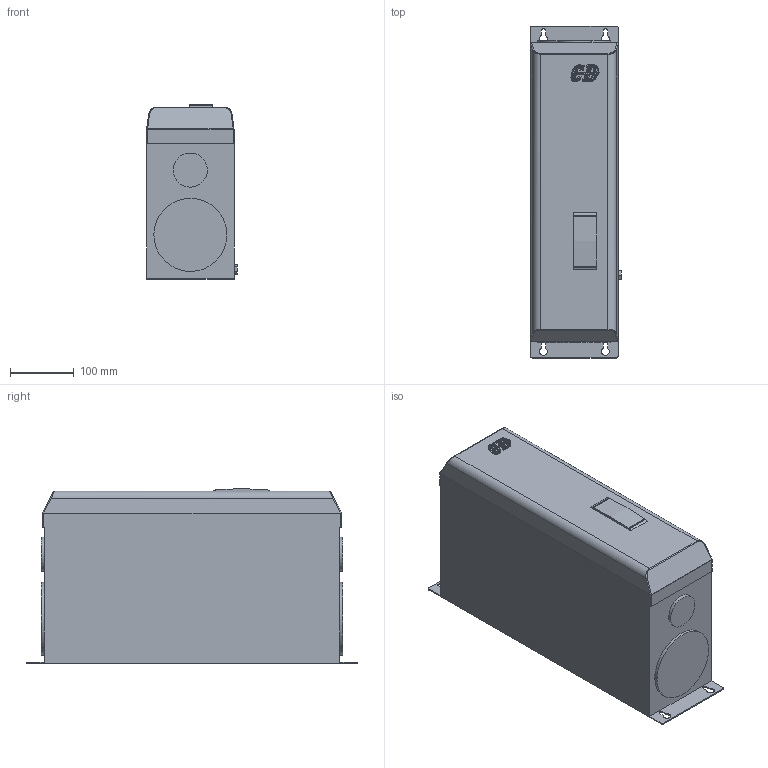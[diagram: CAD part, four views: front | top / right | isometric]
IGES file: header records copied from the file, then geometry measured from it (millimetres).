
Global section: file name: S12 300-700A 1PH; native system: AutoCAD 2015 - Italiano (Italian); preprocessor: Autodesk Translation Framework DWG producer (atf_dwg_producer); organization: unknown; date: 20180117.122503; units: millimetre
Bounding box: 142.08 x 520 x 274.08 mm (x, y, z)
Volume: 17147357.7 mm3; surface area: 461826 mm2
Topology: 1 solids, 1 shells, 875 faces, 2462 edges, 1640 vertices
Faces by surface type: bspline 875
